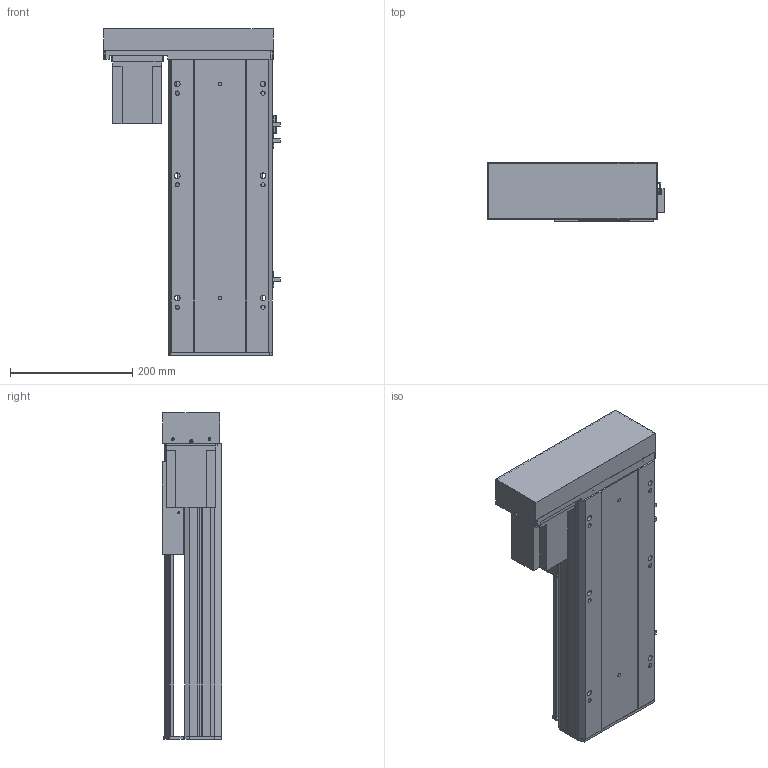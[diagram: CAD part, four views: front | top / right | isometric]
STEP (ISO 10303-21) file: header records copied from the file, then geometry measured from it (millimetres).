
FILE_DESCRIPTION (( 'STEP AP203' ), '1' );
FILE_NAME ('Y170-D10-S250-BL-P750W.STEP', '2020-01-17T13:00:14', ( '微软用户' ), ( '微软中国' ), 'SwSTEP 2.0', 'SolidWorks 2017', '' );
FILE_SCHEMA (( 'CONFIG_CONTROL_DESIGN' ));
Length unit declared in the file: millimetre
Products named in the file (12): 侂狟750W; EGH20賑輸_蕼偞; Y雄赽釱-耜蚾; Y-BL.BR-俋欶; Y170耜裔--準---; Y170-陔遴奻裔-BR; YD-Y100-135-新外置传感挡片(通用）; Y--BL蟀諉啣-陔遴-; Y100-135俋离換覜ん; Y170-D10-S250-BL-P750W; 170--掛极-BR; Y170-BL-P750W楊擘啣
Assembly tree (14 placements, depth 2):
  Y170-D10-S250-BL-P750W
    Y170耜裔--準---
    YD-Y100-135-新外置传感挡片(通用）
    Y100-135俋离換覜ん  x3
    170--掛极-BR
    Y170-BL-P750W楊擘啣
    侂狟750W
    EGH20賑輸_蕼偞  x2
    Y雄赽釱-耜蚾
    Y-BL.BR-俋欶
    Y170-陔遴奻裔-BR
    Y--BL蟀諉啣-陔遴-
Bounding box: 289 x 97 x 533.5 mm (x, y, z)
Volume: 3294433.1 mm3; surface area: 1060992.6 mm2
Topology: 14 solids, 14 shells, 885 faces, 2450 edges, 1616 vertices
Faces by surface type: plane 443, cylinder 426, cone 16
Entity records: 27450 total; most frequent: CARTESIAN_POINT 4694, DIRECTION 4588, ORIENTED_EDGE 4396, EDGE_CURVE 2198, AXIS2_PLACEMENT_3D 1618, VERTEX_POINT 1460, LINE 1352, VECTOR 1352
